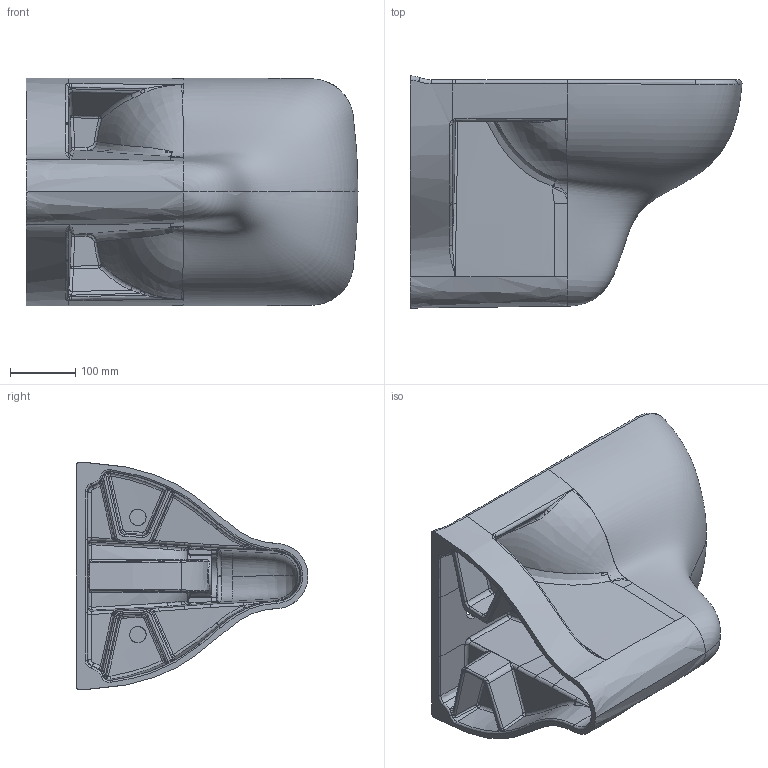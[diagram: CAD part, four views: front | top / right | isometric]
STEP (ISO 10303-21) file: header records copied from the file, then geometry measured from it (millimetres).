
FILE_DESCRIPTION (( 'STEP AP203' ), '1' );
FILE_NAME ('BN510 MODEL.STEP', '2022-04-13T06:17:14', ( '' ), ( '' ), 'SwSTEP 2.0', 'SolidWorks 2021', '' );
FILE_SCHEMA (( 'CONFIG_CONTROL_DESIGN' ));
Products named in the file (1): BN510 MODEL
Bounding box: 509.6 x 356.1 x 349.96 mm (x, y, z)
Surface area: 1042388.9 mm2 (no closed solid volume)
Topology: 0 solids, 7 shells, 515 faces, 1304 edges, 771 vertices
Faces by surface type: bspline 396, plane 58, cylinder 54, cone 7
Entity records: 186352 total; most frequent: CARTESIAN_POINT 177248, ORIENTED_EDGE 2540, EDGE_CURVE 1272, DIRECTION 894, B_SPLINE_CURVE_WITH_KNOTS 844, VERTEX_POINT 771, EDGE_LOOP 523, ADVANCED_FACE 515
